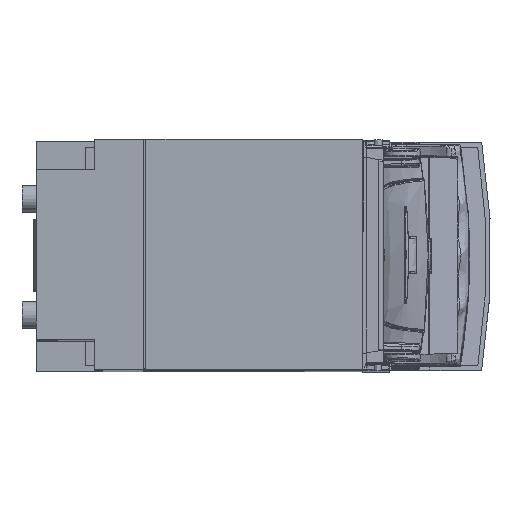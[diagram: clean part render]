
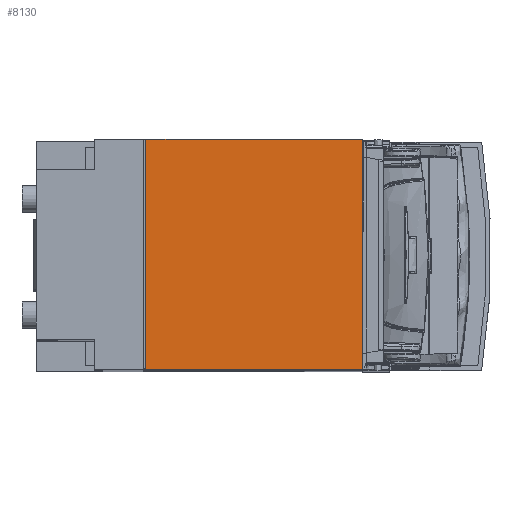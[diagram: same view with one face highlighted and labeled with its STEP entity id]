
A CAD part, top view. The second image highlights one B-rep face of the part: STEP entity #8130.
In plain terms, the highlighted planar face has unit normal (0, 0, 1).
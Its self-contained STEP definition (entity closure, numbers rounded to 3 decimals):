
#8130=ADVANCED_FACE('',(#16940),#14348,.F.);
#14348=PLANE('',#109040);
#16940=FACE_OUTER_BOUND('',#23159,.T.);
#23159=EDGE_LOOP('',(#45847,#45848,#45849,#45850));
#29635=LINE('',#137867,#37042);
#29829=LINE('',#138459,#37236);
#30351=LINE('',#139725,#37758);
#30394=LINE('',#139805,#37801);
#37042=VECTOR('',#115953,1.);
#37236=VECTOR('',#116255,1.);
#37758=VECTOR('',#116955,1.);
#37801=VECTOR('',#117012,1.);
#45847=ORIENTED_EDGE('',*,*,#88354,.T.);
#45848=ORIENTED_EDGE('',*,*,#87715,.F.);
#45849=ORIENTED_EDGE('',*,*,#87465,.F.);
#45850=ORIENTED_EDGE('',*,*,#88310,.F.);
#77239=VERTEX_POINT('',#137866);
#77240=VERTEX_POINT('',#137868);
#77476=VERTEX_POINT('',#138460);
#78022=VERTEX_POINT('',#139724);
#87465=EDGE_CURVE('',#77239,#77240,#29635,.T.);
#87715=EDGE_CURVE('',#77240,#77476,#29829,.T.);
#88310=EDGE_CURVE('',#78022,#77239,#30351,.T.);
#88354=EDGE_CURVE('',#78022,#77476,#30394,.T.);
#109040=AXIS2_PLACEMENT_3D('',#139806,#117013,#117014);
#115953=DIRECTION('',(0.,-1.,0.));
#116255=DIRECTION('',(-1.,0.,0.));
#116955=DIRECTION('',(1.,0.,0.));
#117012=DIRECTION('',(0.,-1.,0.));
#117013=DIRECTION('',(0.,0.,-1.));
#117014=DIRECTION('',(0.,1.,0.));
#137866=CARTESIAN_POINT('',(140.5,49.5,292.));
#137867=CARTESIAN_POINT('',(140.5,49.5,292.));
#137868=CARTESIAN_POINT('',(140.5,-49.5,292.));
#138459=CARTESIAN_POINT('',(152.,-49.5,292.));
#138460=CARTESIAN_POINT('',(47.2,-49.5,292.));
#139724=CARTESIAN_POINT('',(47.2,49.5,292.));
#139725=CARTESIAN_POINT('',(152.,49.5,292.));
#139805=CARTESIAN_POINT('',(47.2,49.3,292.));
#139806=CARTESIAN_POINT('',(152.,49.5,292.));
